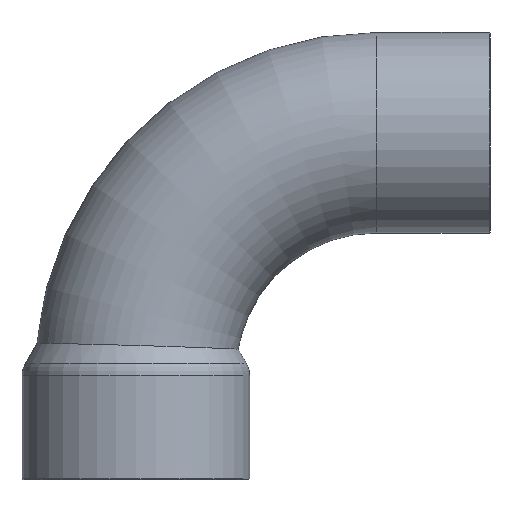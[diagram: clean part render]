
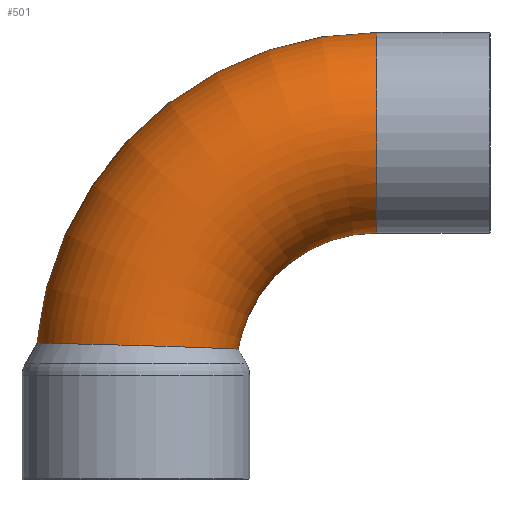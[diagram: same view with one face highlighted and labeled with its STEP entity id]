
A CAD part, left-side view. The second image highlights one B-rep face of the part: STEP entity #501.
In plain terms, the highlighted toroidal (fillet/blend) face has major radius 64.8 mm and minor radius 26.985 mm.
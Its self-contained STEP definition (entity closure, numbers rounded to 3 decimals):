
#121=CARTESIAN_POINT('',(26.985,0.,64.8));
#122=VERTEX_POINT('',#121);
#123=CARTESIAN_POINT('',(0.0,0.,64.8));
#124=DIRECTION('',(0.0,1.0,0.0));
#125=DIRECTION('',(-1.0,0.0,0.0));
#126=AXIS2_PLACEMENT_3D('',#123,#124,#125);
#127=CIRCLE('',#126,26.985);
#128=EDGE_CURVE('',#122,#122,#127,.T.);
#360=CARTESIAN_POINT('',(0.0,91.418,8.2));
#361=VERTEX_POINT('',#360);
#362=CARTESIAN_POINT('',(0.0,91.418,8.2));
#363=CARTESIAN_POINT('',(-3.591,91.418,8.2));
#364=CARTESIAN_POINT('',(-7.146,90.7,8.186));
#365=CARTESIAN_POINT('',(-13.744,87.92,8.129));
#366=CARTESIAN_POINT('',(-16.725,85.895,8.087));
#367=CARTESIAN_POINT('',(-21.73,80.801,7.975));
#368=CARTESIAN_POINT('',(-23.703,77.781,7.906));
#369=CARTESIAN_POINT('',(-26.366,71.146,7.743));
#370=CARTESIAN_POINT('',(-27.028,67.594,7.65));
#371=CARTESIAN_POINT('',(-26.938,60.424,7.446));
#372=CARTESIAN_POINT('',(-26.181,56.876,7.336));
#373=CARTESIAN_POINT('',(-23.37,50.365,7.115));
#374=CARTESIAN_POINT('',(-21.375,47.449,7.006));
#375=CARTESIAN_POINT('',(-16.64,42.786,6.819));
#376=CARTESIAN_POINT('',(-14.03,40.985,6.741));
#377=CARTESIAN_POINT('',(-8.914,38.644,6.635));
#378=CARTESIAN_POINT('',(-6.527,37.929,6.601));
#379=CARTESIAN_POINT('',(-2.616,37.327,6.573));
#380=CARTESIAN_POINT('',(-1.14,37.224,6.568));
#381=CARTESIAN_POINT('',(1.872,37.262,6.569));
#382=CARTESIAN_POINT('',(3.403,37.413,6.577));
#383=CARTESIAN_POINT('',(7.772,38.227,6.615));
#384=CARTESIAN_POINT('',(10.526,39.222,6.662));
#385=CARTESIAN_POINT('',(16.189,42.376,6.801));
#386=CARTESIAN_POINT('',(18.934,44.717,6.899));
#387=CARTESIAN_POINT('',(23.259,50.202,7.108));
#388=CARTESIAN_POINT('',(24.849,53.257,7.216));
#389=CARTESIAN_POINT('',(26.787,59.7,7.423));
#390=CARTESIAN_POINT('',(27.154,63.023,7.522));
#391=CARTESIAN_POINT('',(26.674,69.624,7.704));
#392=CARTESIAN_POINT('',(25.835,72.848,7.786));
#393=CARTESIAN_POINT('',(23.023,78.868,7.931));
#394=CARTESIAN_POINT('',(21.061,81.607,7.993));
#395=CARTESIAN_POINT('',(16.193,86.274,8.095));
#396=CARTESIAN_POINT('',(13.313,88.144,8.133));
#397=CARTESIAN_POINT('',(6.934,90.742,8.186));
#398=CARTESIAN_POINT('',(3.484,91.418,8.2));
#399=CARTESIAN_POINT('',(0.,91.418,8.2));
#400=B_SPLINE_CURVE_WITH_KNOTS('',3,(#362,#363,#364,#365,#366,#367,#368,#369,#370,#371,#372,#373,#374,#375,#376,#377,#378,#379,#380,#381,#382,#383,#384,#385,#386,#387,#388,#389,#390,#391,#392,#393,#394,#395,#396,#397,#398,#399),.UNSPECIFIED.,.T.,.U.,(4,2,2,2,2,2,2,2,2,2,2,2,2,2,2,2,2,2,4),(-17.037,-15.96,-14.889,-13.818,-12.744,-11.666,-10.616,-9.671,-8.928,-8.484,-8.024,-7.151,-6.079,-5.055,-4.06,-3.068,-2.066,-1.045,0.0),.UNSPECIFIED.);
#401=EDGE_CURVE('',#361,#361,#400,.T.);
#490=CARTESIAN_POINT('',(0.0,0.0,0.0));
#491=DIRECTION('',(1.0,0.0,0.0));
#492=DIRECTION('',(0.0,0.0,-1.0));
#493=AXIS2_PLACEMENT_3D('',#490,#491,#492);
#494=TOROIDAL_SURFACE('',#493,64.8,26.985);
#495=ORIENTED_EDGE('',*,*,#128,.T.);
#496=EDGE_LOOP('',(#495));
#497=FACE_OUTER_BOUND('',#496,.T.);
#498=ORIENTED_EDGE('',*,*,#401,.T.);
#499=EDGE_LOOP('',(#498));
#500=FACE_BOUND('',#499,.T.);
#501=ADVANCED_FACE('',(#497,#500),#494,.T.);
